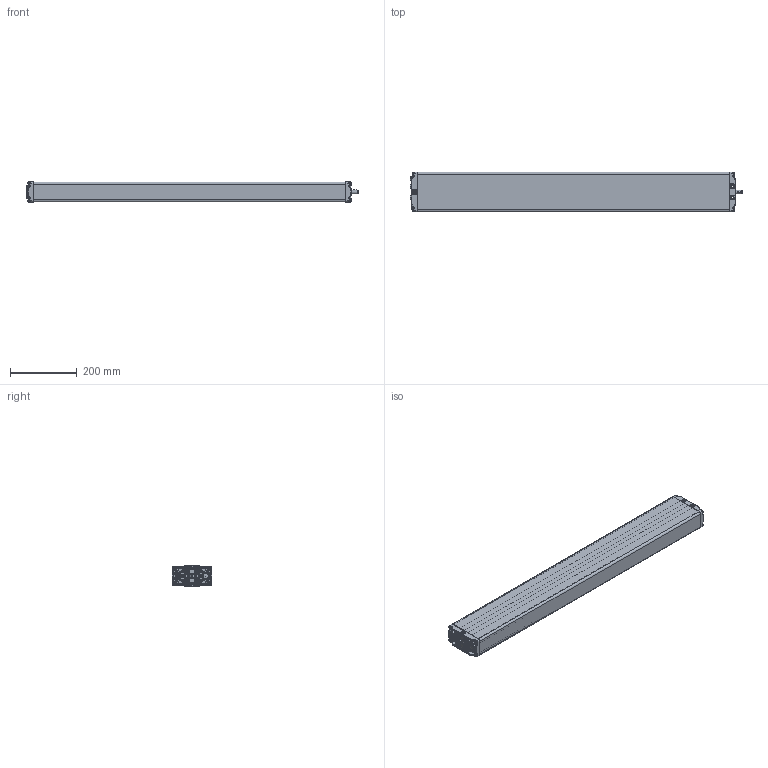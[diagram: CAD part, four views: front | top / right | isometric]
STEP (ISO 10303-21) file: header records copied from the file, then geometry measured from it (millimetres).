
FILE_DESCRIPTION(/* description */ ('Unknown'),/* implementation_level */ '2;1');
FILE_NAME(/* name */ '102.20038 Pumpe PB 5870 W',/* time_stamp */ '2016-10-21T16:28:40+02:00',/* author */ ('Unknown'),/* organization */ ('Unknown'),/* preprocessor_version */ 'ST-DEVELOPER v16.7',/* originating_system */ 'DEX',/* authorisation */ $);
FILE_SCHEMA (('AUTOMOTIVE_DESIGN {1 0 10303 214 3 1 1}'));
Products named in the file (15): 102.20038; 115.00039; 125.00045; 115.00008; 142.00021; 125.00021; 142.00013; 142.00110; 125.00149; 115.00140; 126.00006; 122.00040; 119.00040; 126.00005; 142.00057
Assembly tree (25 placements, depth 3):
  102.20038
    115.00039  x5
      125.00045
      115.00008
      142.00021
      125.00021
    142.00013  x8
    142.00110
    125.00149
    115.00140
      126.00006
      122.00040
    119.00040
    126.00005
    142.00057
Bounding box: 998.47 x 120 x 60.3 mm (x, y, z)
Volume: 1155620.5 mm3; surface area: 810529.1 mm2
Topology: 30 solids, 30 shells, 2551 faces, 6042 edges, 3481 vertices
Faces by surface type: bspline 704, plane 684, cylinder 568, cone 361, torus 174, sphere 60
Full cylindrical faces by diameter (mm): 3.5 x5, 4.1 x5, 4.2 x5, 5 x8, 6.917 x10, 8 x11, 9.8 x8, 10 x3, 10.4 x1, 14 x1, 14.4 x5, 15.8 x1, 17.3 x5, 17.9 x10, 18 x2, 19 x1, 21.2 x1
Entity records: 97701 total; most frequent: CARTESIAN_POINT 54084, ORIENTED_EDGE 8246, DIRECTION 6581, EDGE_CURVE 4123, AXIS2_PLACEMENT_3D 2648, VERTEX_POINT 2525, FACE_BOUND 1992, EDGE_LOOP 1991
